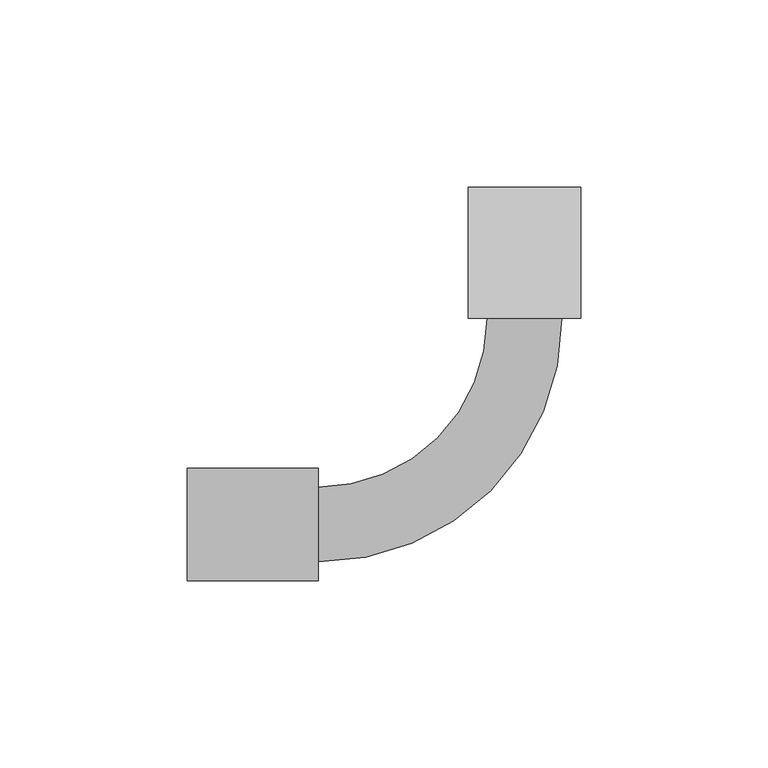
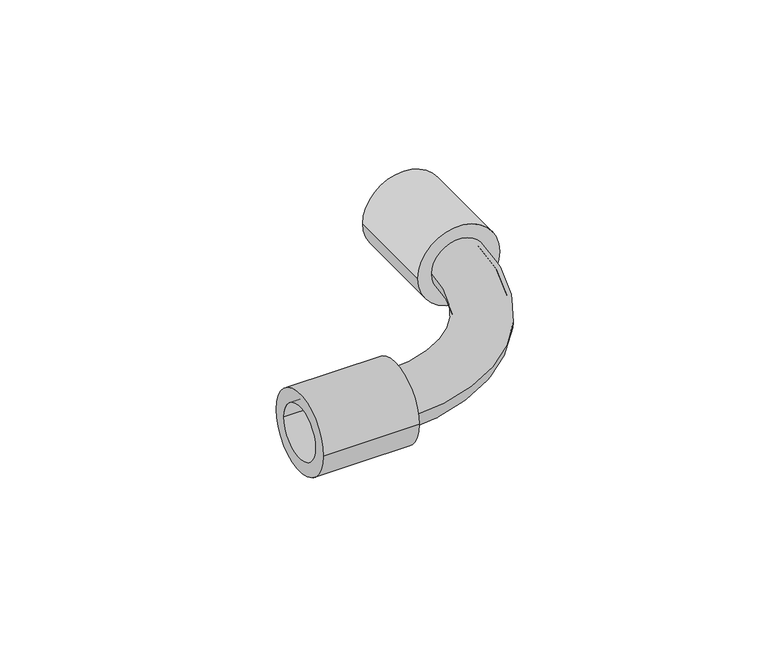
"""IFC4 building model written with IfcOpenShell, lengths in millimetres: cable carrier fitting geometry."""

from ifc_helpers import new_model, si_unit, point, frame, origin, origin_2d, place, context, project, spatial, circle_curve, ellipse_curve, trimmed, segment, composite_curve, outline, extrude, source, transform, mapped, element, save
from ifc_brep_helpers import plane_surface, revolved_surface, advanced_brep


def cable_carrier_fitting_de506a34(model_context):
    return source(origin(), model_context, "Body", "SolidModel", [
        advanced_brep(
        [(-55.0, -10.0, 0.0), (-55.0, 10.0, 0.0), (-55.0, -8.5, 0.0), (-55.0, 8.5, 0.0), (10.0, 55.0, 0.0), (-10.0, 55.0, 0.0), (8.5, 55.0, 0.0), (-8.5, 55.0, 0.0)],
        [
            (0, 1, circle_curve(frame((-55.0, 0.0, 0.0), z_axis=(-1.0, 0.0, 0.0), x_axis=(0.0, 1.0, 0.0)), 10.0)),
            (1, 0, circle_curve(frame((-55.0, 0.0, 0.0), z_axis=(-1.0, 0.0, 0.0), x_axis=(0.0, 1.0, 0.0)), 10.0)),
            (2, 3, circle_curve(frame((-55.0, 0.0, 0.0), z_axis=(1.0, 0.0, 0.0), x_axis=(0.0, 1.0, 0.0)), 8.5)),
            (3, 2, circle_curve(frame((-55.0, 0.0, 0.0), z_axis=(1.0, 0.0, 0.0), x_axis=(0.0, 1.0, 0.0)), 8.5)),
            (4, 5, circle_curve(frame((0.0, 55.0, 0.0), z_axis=(0.0, 1.0, 0.0), x_axis=(-1.0, 0.0, 0.0)), 10.0)),
            (5, 4, circle_curve(frame((0.0, 55.0, 0.0), z_axis=(0.0, 1.0, 0.0), x_axis=(-1.0, 0.0, 0.0)), 10.0)),
            (6, 7, circle_curve(frame((0.0, 55.0, 0.0), z_axis=(0.0, -1.0, 0.0), x_axis=(-1.0, 0.0, 0.0)), 8.5)),
            (7, 6, circle_curve(frame((0.0, 55.0, 0.0), z_axis=(0.0, -1.0, 0.0), x_axis=(-1.0, 0.0, 0.0)), 8.5)),
            (5, 1, circle_curve(frame((-55.0, 55.0, 0.0), z_axis=(0.0, 0.0, -1.0), x_axis=(0.0, -1.0, 0.0)), 45.0)),
            (0, 4, circle_curve(frame((-55.0, 55.0, 0.0), z_axis=(0.0, 0.0, 1.0), x_axis=(0.0, -1.0, 0.0)), 65.0)),
            (7, 3, circle_curve(frame((-55.0, 55.0, 0.0), z_axis=(0.0, 0.0, -1.0), x_axis=(0.0, -1.0, 0.0)), 46.5)),
            (2, 6, circle_curve(frame((-55.0, 55.0, 0.0), z_axis=(0.0, 0.0, 1.0), x_axis=(0.0, -1.0, 0.0)), 63.5)),
        ],
        [
            plane_surface(frame((-55.0, 0.0, 0.0), z_axis=(-1.0, 0.0, 0.0), x_axis=(0.0, 0.0, 1.0))),
            plane_surface(frame((0.0, 55.0, 0.0), z_axis=(0.0, 1.0, 0.0), x_axis=(0.0, 0.0, 1.0))),
            revolved_surface(trimmed(ellipse_curve(frame((-55.0, 0.0, 0.0), z_axis=(-1.0, 0.0, 0.0), x_axis=(0.0, 1.0, 0.0)), 10.0, 10.0), [point((-55.0, -10.0, 0.0))], [point((-55.0, 10.0, 0.0))], True, "CARTESIAN"), (-55.0, 55.0, 0.0), (0.0, 0.0, 1.0)),
            revolved_surface(trimmed(ellipse_curve(frame((-55.0, 0.0, 0.0), z_axis=(-1.0, 0.0, 0.0), x_axis=(0.0, 1.0, 0.0)), 10.0, 10.0), [point((-55.0, 10.0, 0.0))], [point((-55.0, -10.0, 0.0))], True, "CARTESIAN"), (-55.0, 55.0, 0.0), (0.0, 0.0, 1.0)),
            revolved_surface(trimmed(ellipse_curve(frame((-55.0, 0.0, 0.0), z_axis=(1.0, 0.0, 0.0), x_axis=(0.0, 1.0, 0.0)), 8.5, 8.5), [point((-55.0, -8.5, 0.0))], [point((-55.0, 8.5, 0.0))], True, "CARTESIAN"), (-55.0, 55.0, 0.0), (0.0, 0.0, 1.0)),
            revolved_surface(trimmed(ellipse_curve(frame((-55.0, 0.0, 0.0), z_axis=(1.0, 0.0, 0.0), x_axis=(0.0, 1.0, 0.0)), 8.5, 8.5), [point((-55.0, 8.5, 0.0))], [point((-55.0, -8.5, 0.0))], True, "CARTESIAN"), (-55.0, 55.0, 0.0), (0.0, 0.0, 1.0)),
        ],
        [
            (0, [[1, 2], [3, 4]]),
            (1, [[5, 6], [7, 8]]),
            (2, [[9, -1, 10, -6]]),
            (3, [[-10, -2, -9, -5]]),
            (4, [[11, -3, 12, -8]]),
            (5, [[-12, -4, -11, -7]]),
        ],
    ),
        extrude(outline(composite_curve([segment(trimmed(circle_curve(origin_2d(), 15.0), [point((0.0, 15.0))], [point((0.0, -15.0))], False, "CARTESIAN"), True, "CONTINUOUS"), segment(trimmed(circle_curve(origin_2d(), 15.0), [point((0.0, -15.0))], [point((0.0, 15.0))], False, "CARTESIAN"), True, "CONTINUOUS")], self_intersect=False), holes=[composite_curve([segment(trimmed(circle_curve(origin_2d(), 10.0), [point((0.0, 10.0))], [point((0.0, -10.0))], True, "CARTESIAN"), True, "CONTINUOUS"), segment(trimmed(circle_curve(origin_2d(), 10.0), [point((0.0, -10.0))], [point((0.0, 10.0))], True, "CARTESIAN"), True, "CONTINUOUS")], self_intersect=False)]), frame((0.0, 55.0, 0.0), z_axis=(0.0, 1.0, 0.0), x_axis=(0.0, 0.0, 1.0)), (0.0, 0.0, 1.0), 35.0),
        extrude(outline(composite_curve([segment(trimmed(circle_curve(origin_2d(), 15.0), [point((-15.0, 0.0))], [point((15.0, 0.0))], False, "CARTESIAN"), True, "CONTINUOUS"), segment(trimmed(circle_curve(origin_2d(), 15.0), [point((15.0, 0.0))], [point((-15.0, 0.0))], False, "CARTESIAN"), True, "CONTINUOUS")], self_intersect=False), holes=[composite_curve([segment(trimmed(circle_curve(origin_2d(), 10.0), [point((-10.0, 0.0))], [point((10.0, 0.0))], True, "CARTESIAN"), True, "CONTINUOUS"), segment(trimmed(circle_curve(origin_2d(), 10.0), [point((10.0, 0.0))], [point((-10.0, 0.0))], True, "CARTESIAN"), True, "CONTINUOUS")], self_intersect=False)]), frame((-90.0, 0.0, 0.0), z_axis=(1.0, 0.0, 0.0), x_axis=(0.0, 1.0, 0.0)), (0.0, 0.0, 1.0), 35.0),
    ])


if __name__ == "__main__":
    model = new_model("IFC4")
    model_context = context("Model", 3, world=origin())
    ifc_project = project(units=[si_unit("LENGTHUNIT", "METRE", prefix="MILLI")], contexts=[model_context])
    site = spatial("IfcSite", under=ifc_project)
    building = spatial("IfcBuilding", under=site)
    placement = place(None, origin())
    cable_carrier_fitting_shape = cable_carrier_fitting_de506a34(model_context)
    element("IfcCableCarrierFitting", 1, at=placement, inside=building, context=model_context, shape_type="MappedRepresentation", body=[
        mapped(cable_carrier_fitting_shape, transform((0.0, 0.0, 0.0), x_axis=(1.0, 0.0, 0.0), y_axis=(0.0, 1.0, 0.0), z_axis=(0.0, 0.0, 1.0))),
    ])
    save(model, "model.ifc")
